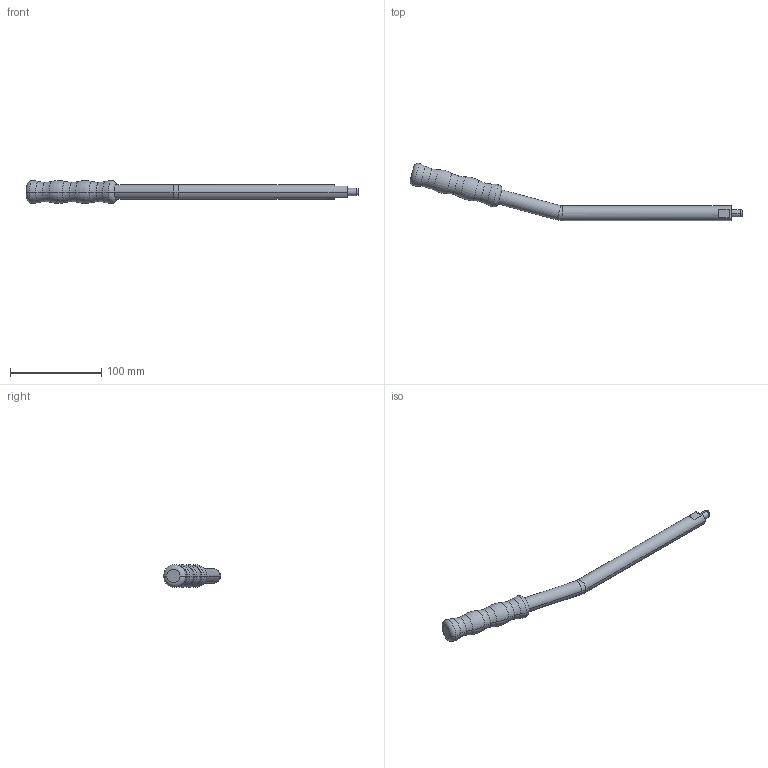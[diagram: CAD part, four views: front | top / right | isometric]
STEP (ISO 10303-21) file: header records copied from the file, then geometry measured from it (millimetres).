
FILE_DESCRIPTION (( 'STEP AP214' ), '1' );
FILE_NAME ('44400.STEP', '2023-01-09T06:31:15', ( '' ), ( '' ), 'SwSTEP 2.0', 'SolidWorks 2021', '' );
FILE_SCHEMA (( 'AUTOMOTIVE_DESIGN' ));
Length unit declared in the file: millimetre
Products named in the file (1): 44400
Bounding box: 364.31 x 62.68 x 24.98 mm (x, y, z)
Volume: 93148.1 mm3; surface area: 23595.6 mm2
Topology: 2 solids, 2 shells, 76 faces, 156 edges, 87 vertices
Faces by surface type: torus 34, cylinder 16, plane 14, cone 12
Entity records: 2873 total; most frequent: DIRECTION 416, CARTESIAN_POINT 330, ORIENTED_EDGE 308, AXIS2_PLACEMENT_3D 189, EDGE_CURVE 154, CIRCLE 112, VERTEX_POINT 87, EDGE_LOOP 81
